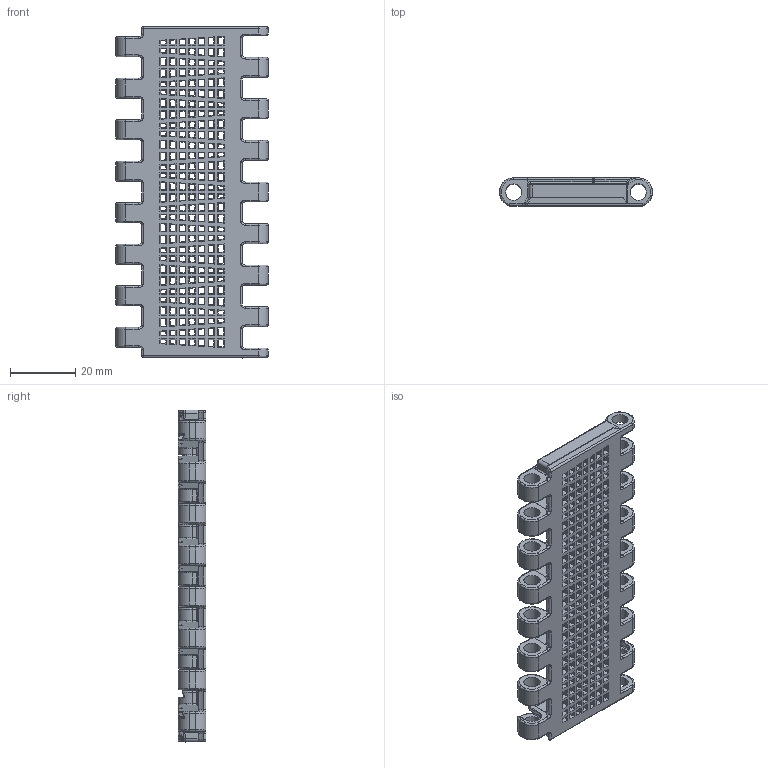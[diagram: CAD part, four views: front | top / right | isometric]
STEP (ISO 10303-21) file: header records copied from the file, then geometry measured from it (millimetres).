
FILE_DESCRIPTION((''),'2;1');
FILE_NAME('P394','2016-06-09T',('jas'),(''),'CREO PARAMETRIC BY PTC INC, 2016050','CREO PARAMETRIC BY PTC INC, 2016050','');
FILE_SCHEMA(('AUTOMOTIVE_DESIGN { 1 0 10303 214 1 1 1 1 }'));
Products named in the file (1): P394
Bounding box: 46.58 x 8.5 x 101.5 mm (x, y, z)
Volume: 12975.9 mm3; surface area: 17406 mm2
Topology: 1 solids, 1 shells, 3169 faces, 8874 edges, 5649 vertices
Faces by surface type: plane 2383, cylinder 417, bspline 187, torus 153, sphere 25, cone 4
Entity records: 115314 total; most frequent: CARTESIAN_POINT 34215, ORIENTED_EDGE 17748, DIRECTION 15027, EDGE_CURVE 8874, VECTOR 7411, LINE 7411, VERTEX_POINT 5649, AXIS2_PLACEMENT_3D 3808
